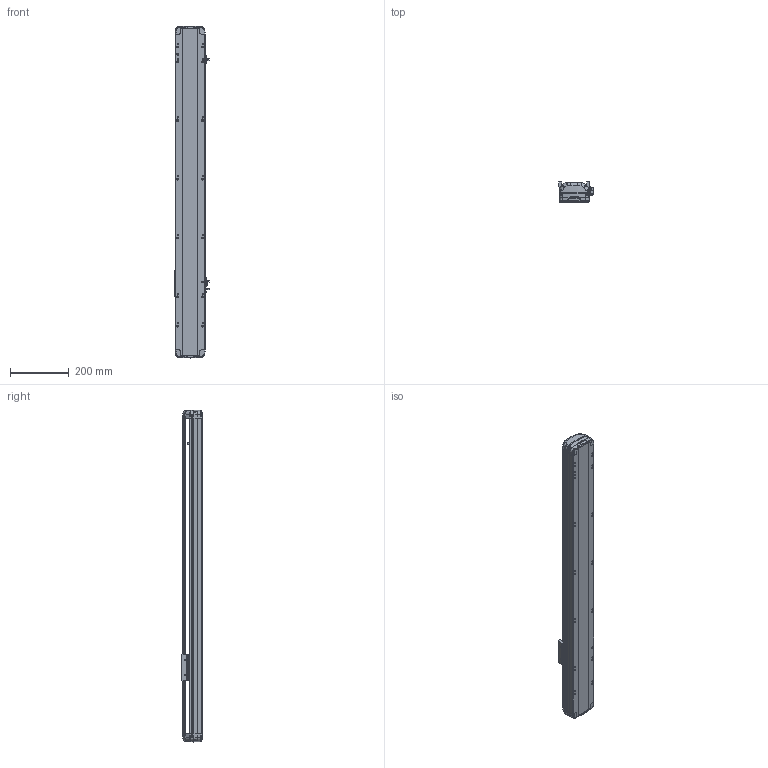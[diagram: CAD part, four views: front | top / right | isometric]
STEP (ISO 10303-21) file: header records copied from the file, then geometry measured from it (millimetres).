
FILE_DESCRIPTION (( 'STEP AP214' ), '1' );
FILE_NAME ('RTH10-XX-750-B-M10-C4.STEP', '2025-10-25T05:16:04', ( 'Microsoft' ), ( 'Microsoft' ), 'SwSTEP 2.0', 'SolidWorks 2018', '' );
FILE_SCHEMA (( 'AUTOMOTIVE_DESIGN' ));
Length unit declared in the file: millimetre
Products named in the file (7): N_RTH13-L-012覜茼え俋离^RTH10-XX-XX-B-M10-C4; RTH10-XX-750-B-M10-C4; N_RTH12-B-007P-奻裔^RTH10-XX-XX-B-M10-C4; N_OMRON EE-SX672 传感器^RTH10-XX-XX-B-M10-C4; N_RTH12-GY-001P^RTH10-XX-XX-B-M10-C4; N_RTH12-B-011P-臏倰第菁釱^RTH10-XX-XX-B-M10-C4; N_RTH12-GY-004-賑釱^RTH10-XX-XX-B-M10-C4
Assembly tree (9 placements, depth 2):
  RTH10-XX-750-B-M10-C4
    N_RTH12-B-011P-臏倰第菁釱^RTH10-XX-XX-B-M10-C4
    N_RTH13-L-012覜茼え俋离^RTH10-XX-XX-B-M10-C4
    N_OMRON EE-SX672 传感器^RTH10-XX-XX-B-M10-C4  x3
    N_RTH12-B-007P-奻裔^RTH10-XX-XX-B-M10-C4
    N_RTH12-GY-004-賑釱^RTH10-XX-XX-B-M10-C4
    N_RTH12-GY-001P^RTH10-XX-XX-B-M10-C4  x2
Bounding box: 116.5 x 70 x 1129.61 mm (x, y, z)
Volume: 4234546.9 mm3; surface area: 682791.1 mm2
Topology: 7 solids, 11 shells, 2220 faces, 6232 edges, 4080 vertices
Faces by surface type: plane 1057, bspline 712, cylinder 431, cone 16, torus 4
Entity records: 50348 total; most frequent: CARTESIAN_POINT 21798, ORIENTED_EDGE 6592, DIRECTION 4660, EDGE_CURVE 3302, VERTEX_POINT 2167, VECTOR 1694, LINE 1694, AXIS2_PLACEMENT_3D 1483
